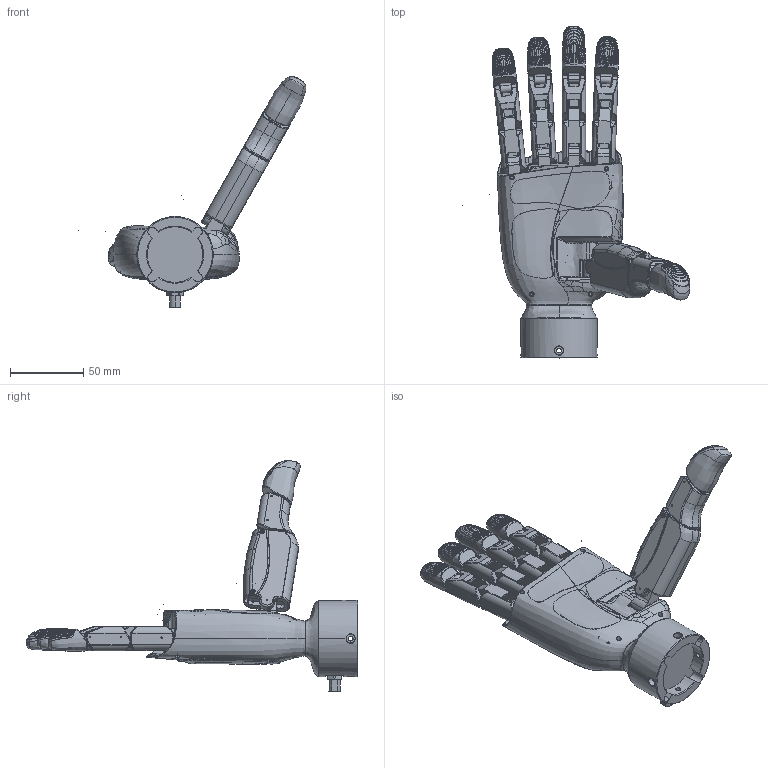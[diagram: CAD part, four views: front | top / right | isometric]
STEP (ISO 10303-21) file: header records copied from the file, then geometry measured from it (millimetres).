
FILE_DESCRIPTION (( 'STEP AP214' ), '1' );
FILE_NAME ('eHand-6-R-CFD-N-8F（右手外发3D）.STEP', '2025-07-04T06:45:47', ( '' ), ( '' ), 'SwSTEP 2.0', 'SolidWorks 2022', '' );
FILE_SCHEMA (( 'AUTOMOTIVE_DESIGN' ));
Length unit declared in the file: millimetre
Products named in the file (17): eHand-6-R-CFD-N-8F（右手外发3D）; 30101010005557  B唳掛; eHand-6-R-CFD-N-8F（主体）; 30101010005532  B唳掛; 30101010005527  B唳掛; eHand-6-R-CFD-N-8F（外壳2）; 湮忒硌; eHand-6-R-CFD-N-8F（外壳1）; ʳָ; 30101010005526  B唳掛; 笢硌; 30101010005529  B唳掛; 30101010005535  B唳掛; 30101010005528  B唳掛; 30101010005530  B唳掛; 苤忒硌; 30101010005553  B唳掛
Assembly tree (21 placements, depth 3):
  eHand-6-R-CFD-N-8F（右手外发3D）
    eHand-6-R-CFD-N-8F（主体）
    eHand-6-R-CFD-N-8F（外壳1）
    eHand-6-R-CFD-N-8F（外壳2）
    ʳָ  x2
      30101010005535  B唳掛
      30101010005532  B唳掛
      30101010005527  B唳掛
    笢硌
      30101010005535  B唳掛
      30101010005532  B唳掛
      30101010005526  B唳掛
    苤忒硌
      30101010005535  B唳掛
      30101010005532  B唳掛
      30101010005528  B唳掛
    湮忒硌
      30101010005557  B唳掛
      30101010005553  B唳掛
      30101010005530  B唳掛
      30101010005529  B唳掛
Bounding box: 155.41 x 226.38 x 157.38 mm (x, y, z)
Volume: 340700.6 mm3; surface area: 142763.4 mm2
Topology: 18 solids, 517 shells, 3260 faces, 8018 edges, 5262 vertices
Faces by surface type: bspline 1351, cylinder 914, plane 671, torus 182, cone 122, sphere 20
Entity records: 306298 total; most frequent: CARTESIAN_POINT 245095, ORIENTED_EDGE 10974, DIRECTION 7808, EDGE_CURVE 5850, VERTEX_POINT 3902, AXIS2_PLACEMENT_3D 2988, EDGE_LOOP 2516, ADVANCED_FACE 2391
